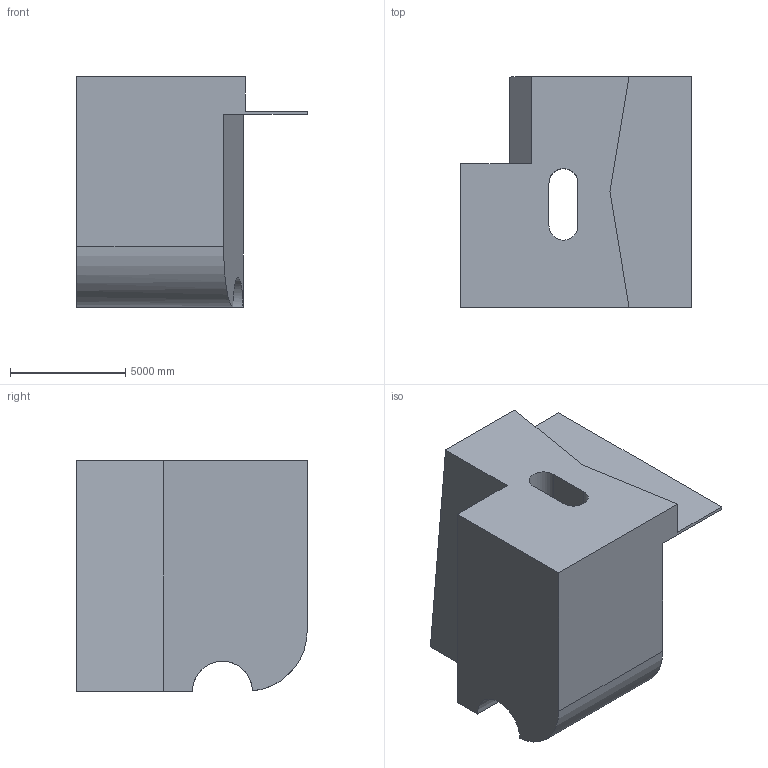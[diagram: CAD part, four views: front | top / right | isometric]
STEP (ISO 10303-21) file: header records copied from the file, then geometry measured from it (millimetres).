
FILE_DESCRIPTION (( 'STEP AP203' ), '1' );
FILE_NAME ('105.STEP', '2022-08-31T11:36:06', ( 'user' ), ( '' ), 'SwSTEP 2.0', 'SolidWorks 2021', '' );
FILE_SCHEMA (( 'CONFIG_CONTROL_DESIGN' ));
Length unit declared in the file: centimetre
Products named in the file (1): 105
Bounding box: 10000 x 10000 x 10000 mm (x, y, z)
Volume: 525615470102.3 mm3; surface area: 571103663.6 mm2
Topology: 1 solids, 1 shells, 20 faces, 57 edges, 38 vertices
Faces by surface type: plane 16, cylinder 4
Entity records: 844 total; most frequent: CARTESIAN_POINT 239, ORIENTED_EDGE 114, DIRECTION 103, EDGE_CURVE 57, VECTOR 47, LINE 47, VERTEX_POINT 38, AXIS2_PLACEMENT_3D 28
